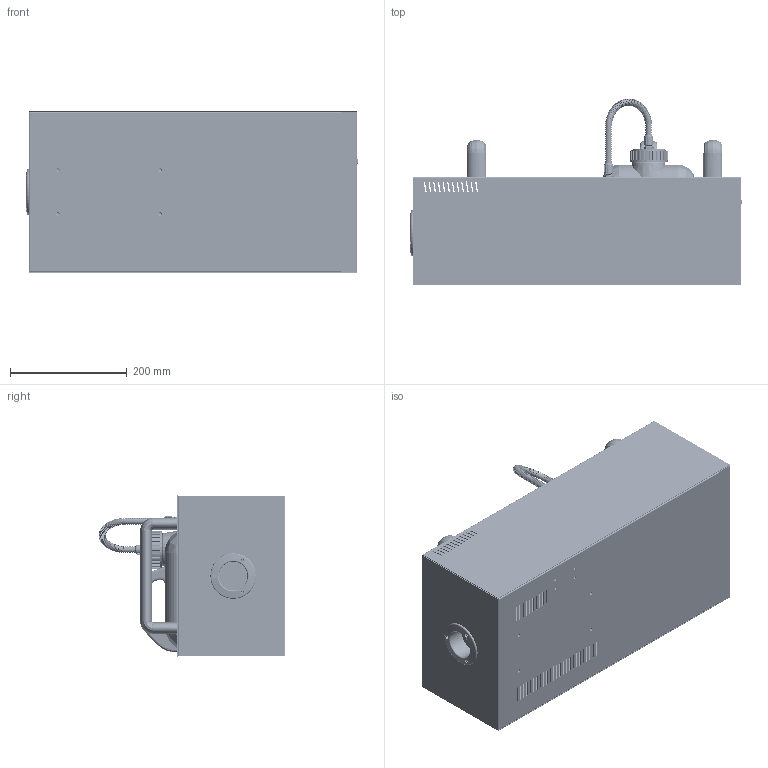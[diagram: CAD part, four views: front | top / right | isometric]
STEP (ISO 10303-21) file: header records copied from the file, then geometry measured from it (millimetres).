
FILE_DESCRIPTION((''),'2;1');
FILE_NAME('W-515D_ASM','2014-08-27T',('Administrator'),(''),'PRO/ENGINEER BY PARAMETRIC TECHNOLOGY CORPORATION, 2008310','PRO/ENGINEER BY PARAMETRIC TECHNOLOGY CORPORATION, 2008310','');
FILE_SCHEMA(('CONFIG_CONTROL_DESIGN'));
Length unit declared in the file: millimetre
Products named in the file (30): FT1500H00; C02005300; W515D0H00_ASM; FT1500L00; L-01; L-02; L-02_ASM; W515D0L00_ASM; FT150LL00; B06698000; B06605A01; B06605B01; C04312600; C00070200; C04312600-ASSY_ASM; C02005200; C04101200; FT150LL00_ASM; Z15020101; Z15020300; Z15020200; Z-1500II-HEATER-ASSY_ASM; C02006000-NOZZLE-COVER; C02001800; 580-40; 580-41; 580-76; 580-77; C02008200-NILYONHOSE-W-515D; W-515D_ASM
Assembly tree (31 placements, depth 4):
  W-515D_ASM
    W515D0H00_ASM
      FT1500H00
      C02005300  x2
    W515D0L00_ASM
      FT1500L00
      L-01
      L-02_ASM
        L-02
    FT150LL00_ASM
      FT150LL00
      B06698000
      B06605A01
      B06605B01
      C04312600-ASSY_ASM
        C04312600
        C00070200
      C02005200
      C04101200
    Z-1500II-HEATER-ASSY_ASM
      Z15020101
      Z15020300
      Z15020200
    C02006000-NOZZLE-COVER
    C02001800
    580-40
    580-41
    580-76  x2
    580-77
    C02008200-NILYONHOSE-W-515D
Bounding box: 568.1 x 319.27 x 278.2 mm (x, y, z)
Volume: 1894922.1 mm3; surface area: 2394403.4 mm2
Topology: 35 solids, 37 shells, 4082 faces, 9853 edges, 6126 vertices
Faces by surface type: plane 1646, cylinder 1115, bspline 1033, torus 190, sphere 58, extrusion 16, cone 16, revolution 8
Entity records: 276159 total; most frequent: CARTESIAN_POINT 187306, ORIENTED_EDGE 19270, DIRECTION 16110, EDGE_CURVE 9635, VERTEX_POINT 5992, AXIS2_PLACEMENT_3D 5704, VECTOR 4698, EDGE_LOOP 4691
